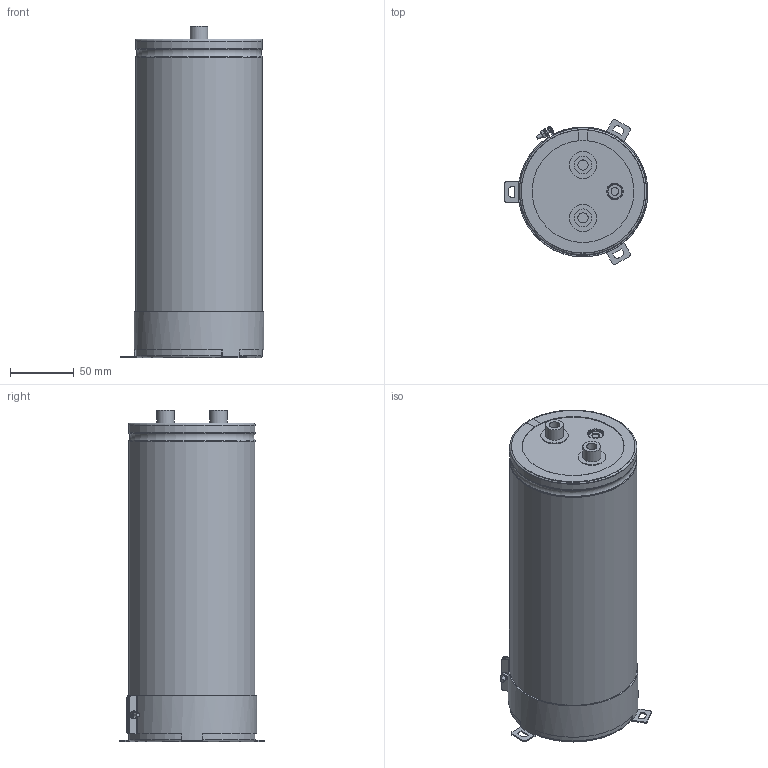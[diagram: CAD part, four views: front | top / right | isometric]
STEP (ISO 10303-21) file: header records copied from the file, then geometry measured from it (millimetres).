
FILE_DESCRIPTION(/* description */ (''),/* implementation_level */ '2;1');
FILE_NAME(/* name */ '100x250_Screw.stp',/* time_stamp */ '2017-09-17T15:31:39+09:00',/* author */ (''),/* organization */ (''),/* preprocessor_version */ 'ST-DEVELOPER v16',/* originating_system */ 'SIEMENS PLM Software NX 11.0',/* authorisation */ '');
FILE_SCHEMA (('AUTOMOTIVE_DESIGN { 1 0 10303 214 3 1 1 1 }'));
Length unit declared in the file: millimetre
Products named in the file (1): 100x250_Screw
Bounding box: 112.99 x 113.92 x 260 mm (x, y, z)
Volume: 1968097 mm3; surface area: 284500.7 mm2
Topology: 9 solids, 9 shells, 257 faces, 639 edges, 411 vertices
Faces by surface type: plane 111, cylinder 65, torus 49, cone 31, sphere 1
Full cylindrical faces by diameter (mm): 3 x5, 5.5 x2, 6 x4, 8 x2, 13 x2, 14 x2, 21.5 x2, 98.8 x2
Entity records: 8394 total; most frequent: CARTESIAN_POINT 2076, DIRECTION 1288, ORIENTED_EDGE 1210, EDGE_CURVE 605, AXIS2_PLACEMENT_3D 537, VERTEX_POINT 406, EDGE_LOOP 313, CIRCLE 279
